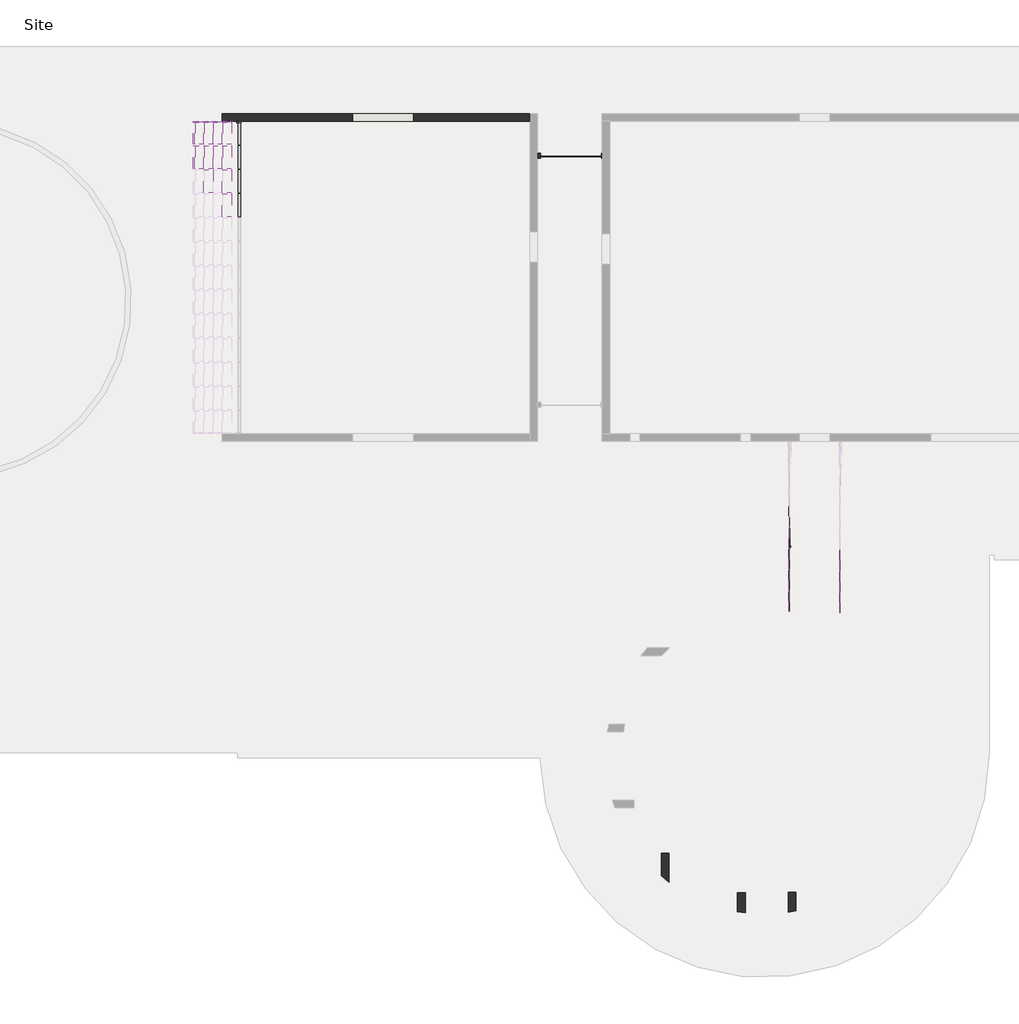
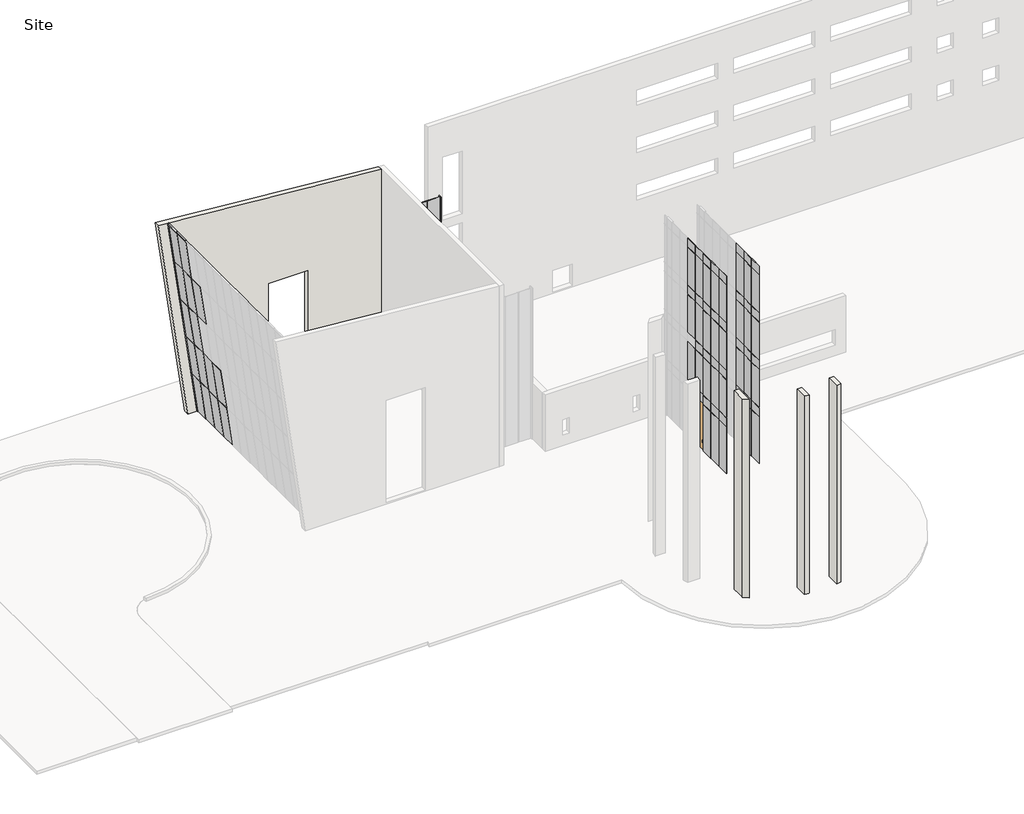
# One storey, part 2 of 4: 79 plates, 7 members, 6 walls, 1 door.
"""IFC4 building model written with IfcOpenShell, lengths in millimetres."""

from ifc_helpers import new_model, si_unit, point, frame, frame_2d, origin, place, context, project, spatial, polyline, circle_curve, trimmed, segment, composite_curve, outline, extrude, transform, mapped, element, save
from components import door_curtain_wall_single_glass_door_curtain_wall_single_cd2b9e2e, member_f8a9089e, member_5e02c13a, member_50cd645d, member_5d333a65, system_panel_glazed_908aa4c7, system_panel_glazed_38880ecf, system_panel_glazed_26f8e022, system_panel_glazed_31d10065, system_panel_glazed_d00c2bb3, system_panel_glazed_c11227ff, system_panel_glazed_2b3d2baa, system_panel_glazed_00a161e3, system_panel_glazed_8fe7ab7d, system_panel_glazed_2ccc015e, system_panel_glazed_636dec6d, system_panel_glazed_4a693619, system_panel_glazed_35bb093a, system_panel_glazed_f91df05e, system_panel_glazed_78b5b18d, system_panel_metal_panel_ca084d4b, system_panel_metal_panel_947f48db, system_panel_metal_panel_f9c2a482, system_panel_metal_panel_dcd9a435

model = new_model("IFC4")

# Units and contexts
model_context = context("Model", 3, world=origin())
ifc_project = project(units=[si_unit("LENGTHUNIT", "METRE", prefix="MILLI")], contexts=[model_context])

# Site, building, storey
site = spatial("IfcSite", under=ifc_project)
building = spatial("IfcBuilding", under=site)
storey = spatial("IfcBuildingStorey", under=building, Name="Site", Elevation=-152.4)

# Door
placement = place(None, origin())
door_curtain_wall_single_glass_door_curtain_wall_single_shape = door_curtain_wall_single_glass_door_curtain_wall_single_cd2b9e2e(model_context)
element("IfcDoor", 1, ObjectType="Door-Curtain-Wall-Single-Glass : Door-Curtain-Wall-Single-Glass", at=placement, inside=storey, context=model_context, shape_type="MappedRepresentation", body=[
    mapped(door_curtain_wall_single_glass_door_curtain_wall_single_shape, transform((7830.8276119, 32367.0165522, -88.9), x_axis=(0.0, 1.0, 0.0), y_axis=(-1.0, 0.0, 0.0), z_axis=(0.0, 0.0, 1.0))),
])

# Members
member_shape = member_f8a9089e(model_context)
element("IfcMember", 2, ObjectType="Rectangular Mullion1 : 2.5\" x 5\" rectangular", at=placement, inside=storey, context=model_context, shape_type="MappedRepresentation", body=[
    mapped(member_shape, transform((-27908.8595656, 55983.1320811, 19574.3667708), x_axis=(-0.13917310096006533, 0.0, 0.9902680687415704), y_axis=(-0.9902680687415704, 0.0, -0.13917310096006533), z_axis=(0.0, -1.0, 0.0))),
])
member_2_shape = member_5e02c13a(model_context)
element("IfcMember", 3, ObjectType="Rectangular Mullion1 : 2.5\" x 5\" rectangular", at=placement, inside=storey, context=model_context, shape_type="MappedRepresentation", body=[
    mapped(member_2_shape, transform((-27908.8595656, 54536.0647734, 19574.3667708), x_axis=(-0.13917310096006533, 0.0, 0.9902680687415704), y_axis=(-0.9902680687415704, 0.0, -0.13917310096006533), z_axis=(0.0, -1.0, 0.0))),
])
member_3_shape = member_50cd645d(model_context)
element("IfcMember", 4, ObjectType="Rectangular Mullion1 : 2.5\" x 5\" rectangular", at=placement, inside=storey, context=model_context, shape_type="MappedRepresentation", body=[
    mapped(member_3_shape, transform((-27908.8595656, 57366.699389, 19574.3667708), x_axis=(0.0, 1.0, 0.0), y_axis=(-0.9902680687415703, 0.0, -0.13917310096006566), z_axis=(-0.13917310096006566, 0.0, 0.9902680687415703))),
])
element("IfcMember", 5, ObjectType="Rectangular Mullion1 : 2.5\" x 5\" rectangular", at=placement, inside=storey, context=model_context, shape_type="MappedRepresentation", body=[
    mapped(member_3_shape, transform((-25693.3790742, 57366.699389, 3810.4039622), x_axis=(0.0, 1.0, 0.0), y_axis=(-0.9902680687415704, 0.0, -0.13917310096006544), z_axis=(-0.1391731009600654, 0.0, 0.9902680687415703))),
])
member_4_shape = member_5d333a65(model_context)
element("IfcMember", 6, ObjectType="Rectangular Mullion1 : 2.5\" x 5\" rectangular", at=placement, inside=storey, context=model_context, shape_type="MappedRepresentation", body=[
    mapped(member_4_shape, transform((-26246.1445106, 57366.699389, 7743.5344115), x_axis=(0.0, 1.0, 0.0), y_axis=(-0.9902680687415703, 0.0, -0.13917310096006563), z_axis=(-0.1391731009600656, 0.0, 0.9902680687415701))),
])
element("IfcMember", 7, ObjectType="Rectangular Mullion1 : 2.5\" x 5\" rectangular", at=placement, inside=storey, context=model_context, shape_type="MappedRepresentation", body=[
    mapped(member_4_shape, transform((-26798.9099469, 57366.699389, 11676.6648609), x_axis=(0.0, 1.0, 0.0), y_axis=(-0.9902680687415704, 0.0, -0.13917310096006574), z_axis=(-0.13917310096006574, 0.0, 0.9902680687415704))),
])
element("IfcMember", 8, ObjectType="Rectangular Mullion1 : 2.5\" x 5\" rectangular", at=placement, inside=storey, context=model_context, shape_type="MappedRepresentation", body=[
    mapped(member_4_shape, transform((-27351.6753833, 57366.699389, 15609.7953102), x_axis=(0.0, 1.0, 0.0), y_axis=(-0.9902680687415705, 0.0, -0.13917310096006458), z_axis=(-0.13917310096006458, 0.0, 0.9902680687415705))),
])

# Plates
system_panel_glazed_shape = system_panel_glazed_908aa4c7(model_context)
element("IfcPlate", 9, ObjectType="System Panel : Glazed", at=placement, inside=storey, context=model_context, shape_type="MappedRepresentation", body=[
    mapped(system_panel_glazed_shape, transform((10878.8276119, 28482.136889, -88.9), x_axis=(0.0, 1.0, 0.0), y_axis=(-1.0, 0.0, 0.0), z_axis=(0.0, 0.0, 1.0))),
])
system_panel_glazed_2_shape = system_panel_glazed_38880ecf(model_context)
element("IfcPlate", 10, ObjectType="System Panel : Glazed", at=placement, inside=storey, context=model_context, shape_type="MappedRepresentation", body=[
    mapped(system_panel_glazed_2_shape, transform((7830.8276119, 28569.8946611, -88.9), x_axis=(0.0, 1.0, 0.0), y_axis=(-1.0, 0.0, 0.0), z_axis=(0.0, 0.0, 1.0))),
])
system_panel_glazed_3_shape = system_panel_glazed_26f8e022(model_context)
element("IfcPlate", 11, ObjectType="System Panel : Glazed", at=placement, inside=storey, context=model_context, shape_type="MappedRepresentation", body=[
    mapped(system_panel_glazed_3_shape, transform((7830.8276119, 33638.015516, -88.9), x_axis=(0.0, 1.0, 0.0), y_axis=(-1.0, 0.0, 0.0), z_axis=(0.0, 0.0, 1.0))),
])
element("IfcPlate", 12, ObjectType="System Panel : Glazed", at=placement, inside=storey, context=model_context, shape_type="MappedRepresentation", body=[
    mapped(system_panel_glazed_3_shape, transform((7830.8276119, 31096.0175885, -88.9), x_axis=(0.0, 1.0, 0.0), y_axis=(-1.0, 0.0, 0.0), z_axis=(0.0, 0.0, 1.0))),
])
element("IfcPlate", 13, ObjectType="System Panel : Glazed", at=placement, inside=storey, context=model_context, shape_type="MappedRepresentation", body=[
    mapped(system_panel_glazed_3_shape, transform((7830.8276119, 29825.0186248, -88.9), x_axis=(0.0, 1.0, 0.0), y_axis=(-1.0, 0.0, 0.0), z_axis=(0.0, 0.0, 1.0))),
])
system_panel_glazed_4_shape = system_panel_glazed_31d10065(model_context)
element("IfcPlate", 14, ObjectType="System Panel : Glazed", at=placement, inside=storey, context=model_context, shape_type="MappedRepresentation", body=[
    mapped(system_panel_glazed_4_shape, transform((10878.8276119, 31031.661889, -88.9), x_axis=(0.0, 1.0, 0.0), y_axis=(-1.0, 0.0, 0.0), z_axis=(0.0, 0.0, 1.0))),
])
element("IfcPlate", 15, ObjectType="System Panel : Glazed", at=placement, inside=storey, context=model_context, shape_type="MappedRepresentation", body=[
    mapped(system_panel_glazed_4_shape, transform((10878.8276119, 29748.961889, -88.9), x_axis=(0.0, 1.0, 0.0), y_axis=(-1.0, 0.0, 0.0), z_axis=(0.0, 0.0, 1.0))),
])
system_panel_glazed_5_shape = system_panel_glazed_d00c2bb3(model_context)
element("IfcPlate", 16, ObjectType="System Panel : Glazed", at=placement, inside=storey, context=model_context, shape_type="MappedRepresentation", body=[
    mapped(system_panel_glazed_5_shape, transform((-4081.74698, 55307.711889, -152.4), x_axis=(-1.0, 0.0, 0.0), y_axis=(0.0, -1.0, 0.0), z_axis=(0.0, 0.0, 1.0))),
])
element("IfcPlate", 17, ObjectType="System Panel : Glazed", at=placement, inside=storey, context=model_context, shape_type="MappedRepresentation", body=[
    mapped(system_panel_glazed_5_shape, transform((-6519.8940341, 55307.711889, -152.4), x_axis=(-1.0, 0.0, 0.0), y_axis=(0.0, -1.0, 0.0), z_axis=(0.0, 0.0, 1.0))),
])
element("IfcPlate", 18, ObjectType="System Panel : Glazed", at=placement, inside=storey, context=model_context, shape_type="MappedRepresentation", body=[
    mapped(system_panel_glazed_5_shape, transform((-5300.8205071, 55307.711889, -152.4), x_axis=(-1.0, 0.0, 0.0), y_axis=(0.0, -1.0, 0.0), z_axis=(0.0, 0.0, 1.0))),
])
system_panel_glazed_6_shape = system_panel_glazed_c11227ff(model_context)
element("IfcPlate", 19, ObjectType="System Panel : Glazed", at=placement, inside=storey, context=model_context, shape_type="MappedRepresentation", body=[
    mapped(system_panel_glazed_6_shape, transform((10878.8276119, 28482.136889, 14966.95), x_axis=(0.0, 1.0, 0.0), y_axis=(-1.0, 0.0, 0.0), z_axis=(0.0, 0.0, 1.0))),
])
element("IfcPlate", 20, ObjectType="System Panel : Glazed", at=placement, inside=storey, context=model_context, shape_type="MappedRepresentation", body=[
    mapped(system_panel_glazed_6_shape, transform((10878.8276119, 28482.136889, 10242.55), x_axis=(0.0, 1.0, 0.0), y_axis=(-1.0, 0.0, 0.0), z_axis=(0.0, 0.0, 1.0))),
])
element("IfcPlate", 21, ObjectType="System Panel : Glazed", at=placement, inside=storey, context=model_context, shape_type="MappedRepresentation", body=[
    mapped(system_panel_glazed_6_shape, transform((10878.8276119, 28482.136889, 5518.15), x_axis=(0.0, 1.0, 0.0), y_axis=(-1.0, 0.0, 0.0), z_axis=(0.0, 0.0, 1.0))),
])
system_panel_glazed_7_shape = system_panel_glazed_2b3d2baa(model_context)
element("IfcPlate", 22, ObjectType="System Panel : Glazed", at=placement, inside=storey, context=model_context, shape_type="MappedRepresentation", body=[
    mapped(system_panel_glazed_7_shape, transform((10878.8276119, 29748.961889, 14966.95), x_axis=(0.0, 1.0, 0.0), y_axis=(-1.0, 0.0, 0.0), z_axis=(0.0, 0.0, 1.0))),
])
element("IfcPlate", 23, ObjectType="System Panel : Glazed", at=placement, inside=storey, context=model_context, shape_type="MappedRepresentation", body=[
    mapped(system_panel_glazed_7_shape, transform((10878.8276119, 31031.661889, 14966.95), x_axis=(0.0, 1.0, 0.0), y_axis=(-1.0, 0.0, 0.0), z_axis=(0.0, 0.0, 1.0))),
])
element("IfcPlate", 24, ObjectType="System Panel : Glazed", at=placement, inside=storey, context=model_context, shape_type="MappedRepresentation", body=[
    mapped(system_panel_glazed_7_shape, transform((10878.8276119, 29748.961889, 10242.55), x_axis=(0.0, 1.0, 0.0), y_axis=(-1.0, 0.0, 0.0), z_axis=(0.0, 0.0, 1.0))),
])
element("IfcPlate", 25, ObjectType="System Panel : Glazed", at=placement, inside=storey, context=model_context, shape_type="MappedRepresentation", body=[
    mapped(system_panel_glazed_7_shape, transform((10878.8276119, 31031.661889, 10242.55), x_axis=(0.0, 1.0, 0.0), y_axis=(-1.0, 0.0, 0.0), z_axis=(0.0, 0.0, 1.0))),
])
element("IfcPlate", 26, ObjectType="System Panel : Glazed", at=placement, inside=storey, context=model_context, shape_type="MappedRepresentation", body=[
    mapped(system_panel_glazed_7_shape, transform((10878.8276119, 29748.961889, 5518.15), x_axis=(0.0, 1.0, 0.0), y_axis=(-1.0, 0.0, 0.0), z_axis=(0.0, 0.0, 1.0))),
])
element("IfcPlate", 27, ObjectType="System Panel : Glazed", at=placement, inside=storey, context=model_context, shape_type="MappedRepresentation", body=[
    mapped(system_panel_glazed_7_shape, transform((10878.8276119, 31031.661889, 5518.15), x_axis=(0.0, 1.0, 0.0), y_axis=(-1.0, 0.0, 0.0), z_axis=(0.0, 0.0, 1.0))),
])
system_panel_glazed_8_shape = system_panel_glazed_00a161e3(model_context)
element("IfcPlate", 28, ObjectType="System Panel : Glazed", at=placement, inside=storey, context=model_context, shape_type="MappedRepresentation", body=[
    mapped(system_panel_glazed_8_shape, transform((10878.8276119, 28482.136889, 9328.15), x_axis=(0.0, 1.0, 0.0), y_axis=(-1.0, 0.0, 0.0), z_axis=(0.0, 0.0, 1.0))),
])
element("IfcPlate", 29, ObjectType="System Panel : Glazed", at=placement, inside=storey, context=model_context, shape_type="MappedRepresentation", body=[
    mapped(system_panel_glazed_8_shape, transform((10878.8276119, 28482.136889, 4603.75), x_axis=(0.0, 1.0, 0.0), y_axis=(-1.0, 0.0, 0.0), z_axis=(0.0, 0.0, 1.0))),
])
element("IfcPlate", 30, ObjectType="System Panel : Glazed", at=placement, inside=storey, context=model_context, shape_type="MappedRepresentation", body=[
    mapped(system_panel_glazed_8_shape, transform((10878.8276119, 28482.136889, 14052.55), x_axis=(0.0, 1.0, 0.0), y_axis=(-1.0, 0.0, 0.0), z_axis=(0.0, 0.0, 1.0))),
])
system_panel_glazed_9_shape = system_panel_glazed_8fe7ab7d(model_context)
element("IfcPlate", 31, ObjectType="System Panel : Glazed", at=placement, inside=storey, context=model_context, shape_type="MappedRepresentation", body=[
    mapped(system_panel_glazed_9_shape, transform((10878.8276119, 29748.961889, 9328.15), x_axis=(0.0, 1.0, 0.0), y_axis=(-1.0, 0.0, 0.0), z_axis=(0.0, 0.0, 1.0))),
])
element("IfcPlate", 32, ObjectType="System Panel : Glazed", at=placement, inside=storey, context=model_context, shape_type="MappedRepresentation", body=[
    mapped(system_panel_glazed_9_shape, transform((10878.8276119, 31031.661889, 9328.15), x_axis=(0.0, 1.0, 0.0), y_axis=(-1.0, 0.0, 0.0), z_axis=(0.0, 0.0, 1.0))),
])
element("IfcPlate", 33, ObjectType="System Panel : Glazed", at=placement, inside=storey, context=model_context, shape_type="MappedRepresentation", body=[
    mapped(system_panel_glazed_9_shape, transform((10878.8276119, 29748.961889, 4603.75), x_axis=(0.0, 1.0, 0.0), y_axis=(-1.0, 0.0, 0.0), z_axis=(0.0, 0.0, 1.0))),
])
element("IfcPlate", 34, ObjectType="System Panel : Glazed", at=placement, inside=storey, context=model_context, shape_type="MappedRepresentation", body=[
    mapped(system_panel_glazed_9_shape, transform((10878.8276119, 31031.661889, 4603.75), x_axis=(0.0, 1.0, 0.0), y_axis=(-1.0, 0.0, 0.0), z_axis=(0.0, 0.0, 1.0))),
])
element("IfcPlate", 35, ObjectType="System Panel : Glazed", at=placement, inside=storey, context=model_context, shape_type="MappedRepresentation", body=[
    mapped(system_panel_glazed_9_shape, transform((10878.8276119, 29748.961889, 14052.55), x_axis=(0.0, 1.0, 0.0), y_axis=(-1.0, 0.0, 0.0), z_axis=(0.0, 0.0, 1.0))),
])
element("IfcPlate", 36, ObjectType="System Panel : Glazed", at=placement, inside=storey, context=model_context, shape_type="MappedRepresentation", body=[
    mapped(system_panel_glazed_9_shape, transform((10878.8276119, 31031.661889, 14052.55), x_axis=(0.0, 1.0, 0.0), y_axis=(-1.0, 0.0, 0.0), z_axis=(0.0, 0.0, 1.0))),
])
system_panel_glazed_10_shape = system_panel_glazed_2ccc015e(model_context)
element("IfcPlate", 37, ObjectType="System Panel : Glazed", at=placement, inside=storey, context=model_context, shape_type="MappedRepresentation", body=[
    mapped(system_panel_glazed_10_shape, transform((10878.8276119, 28482.136889, 18776.95), x_axis=(0.0, 1.0, 0.0), y_axis=(-1.0, 0.0, 0.0), z_axis=(0.0, 0.0, 1.0))),
])
system_panel_glazed_11_shape = system_panel_glazed_636dec6d(model_context)
element("IfcPlate", 38, ObjectType="System Panel : Glazed", at=placement, inside=storey, context=model_context, shape_type="MappedRepresentation", body=[
    mapped(system_panel_glazed_11_shape, transform((10878.8276119, 29748.961889, 18776.95), x_axis=(0.0, 1.0, 0.0), y_axis=(-1.0, 0.0, 0.0), z_axis=(0.0, 0.0, 1.0))),
])
element("IfcPlate", 39, ObjectType="System Panel : Glazed", at=placement, inside=storey, context=model_context, shape_type="MappedRepresentation", body=[
    mapped(system_panel_glazed_11_shape, transform((10878.8276119, 31031.661889, 18776.95), x_axis=(0.0, 1.0, 0.0), y_axis=(-1.0, 0.0, 0.0), z_axis=(0.0, 0.0, 1.0))),
])
system_panel_glazed_12_shape = system_panel_glazed_4a693619(model_context)
element("IfcPlate", 40, ObjectType="System Panel : Glazed", at=placement, inside=storey, context=model_context, shape_type="MappedRepresentation", body=[
    mapped(system_panel_glazed_12_shape, transform((7830.8276119, 28569.8946611, 5518.15), x_axis=(0.0, 1.0, 0.0), y_axis=(-1.0, 0.0, 0.0), z_axis=(0.0, 0.0, 1.0))),
])
element("IfcPlate", 41, ObjectType="System Panel : Glazed", at=placement, inside=storey, context=model_context, shape_type="MappedRepresentation", body=[
    mapped(system_panel_glazed_12_shape, transform((7830.8276119, 28569.8946611, 10242.55), x_axis=(0.0, 1.0, 0.0), y_axis=(-1.0, 0.0, 0.0), z_axis=(0.0, 0.0, 1.0))),
])
element("IfcPlate", 42, ObjectType="System Panel : Glazed", at=placement, inside=storey, context=model_context, shape_type="MappedRepresentation", body=[
    mapped(system_panel_glazed_12_shape, transform((7830.8276119, 28569.8946611, 14966.95), x_axis=(0.0, 1.0, 0.0), y_axis=(-1.0, 0.0, 0.0), z_axis=(0.0, 0.0, 1.0))),
])
system_panel_glazed_13_shape = system_panel_glazed_35bb093a(model_context)
element("IfcPlate", 43, ObjectType="System Panel : Glazed", at=placement, inside=storey, context=model_context, shape_type="MappedRepresentation", body=[
    mapped(system_panel_glazed_13_shape, transform((7830.8276119, 29825.0186248, 5518.15), x_axis=(0.0, 1.0, 0.0), y_axis=(-1.0, 0.0, 0.0), z_axis=(0.0, 0.0, 1.0))),
])
element("IfcPlate", 44, ObjectType="System Panel : Glazed", at=placement, inside=storey, context=model_context, shape_type="MappedRepresentation", body=[
    mapped(system_panel_glazed_13_shape, transform((7830.8276119, 31096.0175885, 5518.15), x_axis=(0.0, 1.0, 0.0), y_axis=(-1.0, 0.0, 0.0), z_axis=(0.0, 0.0, 1.0))),
])
element("IfcPlate", 45, ObjectType="System Panel : Glazed", at=placement, inside=storey, context=model_context, shape_type="MappedRepresentation", body=[
    mapped(system_panel_glazed_13_shape, transform((7830.8276119, 32367.0165522, 5518.15), x_axis=(0.0, 1.0, 0.0), y_axis=(-1.0, 0.0, 0.0), z_axis=(0.0, 0.0, 1.0))),
])
element("IfcPlate", 46, ObjectType="System Panel : Glazed", at=placement, inside=storey, context=model_context, shape_type="MappedRepresentation", body=[
    mapped(system_panel_glazed_13_shape, transform((7830.8276119, 33638.015516, 5518.15), x_axis=(0.0, 1.0, 0.0), y_axis=(-1.0, 0.0, 0.0), z_axis=(0.0, 0.0, 1.0))),
])
element("IfcPlate", 47, ObjectType="System Panel : Glazed", at=placement, inside=storey, context=model_context, shape_type="MappedRepresentation", body=[
    mapped(system_panel_glazed_13_shape, transform((7830.8276119, 29825.0186248, 10242.55), x_axis=(0.0, 1.0, 0.0), y_axis=(-1.0, 0.0, 0.0), z_axis=(0.0, 0.0, 1.0))),
])
element("IfcPlate", 48, ObjectType="System Panel : Glazed", at=placement, inside=storey, context=model_context, shape_type="MappedRepresentation", body=[
    mapped(system_panel_glazed_13_shape, transform((7830.8276119, 31096.0175885, 10242.55), x_axis=(0.0, 1.0, 0.0), y_axis=(-1.0, 0.0, 0.0), z_axis=(0.0, 0.0, 1.0))),
])
element("IfcPlate", 49, ObjectType="System Panel : Glazed", at=placement, inside=storey, context=model_context, shape_type="MappedRepresentation", body=[
    mapped(system_panel_glazed_13_shape, transform((7830.8276119, 32367.0165522, 10242.55), x_axis=(0.0, 1.0, 0.0), y_axis=(-1.0, 0.0, 0.0), z_axis=(0.0, 0.0, 1.0))),
])
element("IfcPlate", 50, ObjectType="System Panel : Glazed", at=placement, inside=storey, context=model_context, shape_type="MappedRepresentation", body=[
    mapped(system_panel_glazed_13_shape, transform((7830.8276119, 33638.015516, 10242.55), x_axis=(0.0, 1.0, 0.0), y_axis=(-1.0, 0.0, 0.0), z_axis=(0.0, 0.0, 1.0))),
])
element("IfcPlate", 51, ObjectType="System Panel : Glazed", at=placement, inside=storey, context=model_context, shape_type="MappedRepresentation", body=[
    mapped(system_panel_glazed_13_shape, transform((7830.8276119, 29825.0186248, 14966.95), x_axis=(0.0, 1.0, 0.0), y_axis=(-1.0, 0.0, 0.0), z_axis=(0.0, 0.0, 1.0))),
])
element("IfcPlate", 52, ObjectType="System Panel : Glazed", at=placement, inside=storey, context=model_context, shape_type="MappedRepresentation", body=[
    mapped(system_panel_glazed_13_shape, transform((7830.8276119, 31096.0175885, 14966.95), x_axis=(0.0, 1.0, 0.0), y_axis=(-1.0, 0.0, 0.0), z_axis=(0.0, 0.0, 1.0))),
])
element("IfcPlate", 53, ObjectType="System Panel : Glazed", at=placement, inside=storey, context=model_context, shape_type="MappedRepresentation", body=[
    mapped(system_panel_glazed_13_shape, transform((7830.8276119, 32367.0165522, 14966.95), x_axis=(0.0, 1.0, 0.0), y_axis=(-1.0, 0.0, 0.0), z_axis=(0.0, 0.0, 1.0))),
])
element("IfcPlate", 54, ObjectType="System Panel : Glazed", at=placement, inside=storey, context=model_context, shape_type="MappedRepresentation", body=[
    mapped(system_panel_glazed_13_shape, transform((7830.8276119, 33638.015516, 14966.95), x_axis=(0.0, 1.0, 0.0), y_axis=(-1.0, 0.0, 0.0), z_axis=(0.0, 0.0, 1.0))),
])
system_panel_glazed_14_shape = system_panel_glazed_f91df05e(model_context)
element("IfcPlate", 55, ObjectType="System Panel : Glazed", at=placement, inside=storey, context=model_context, shape_type="MappedRepresentation", body=[
    mapped(system_panel_glazed_14_shape, transform((-25145.0323838, 56643.165735, -91.285476), x_axis=(0.0, -1.0, 0.0), y_axis=(0.9902680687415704, 0.0, 0.13917310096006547), z_axis=(-0.13917310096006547, 0.0, 0.9902680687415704))),
])
element("IfcPlate", 56, ObjectType="System Panel : Glazed", at=placement, inside=storey, context=model_context, shape_type="MappedRepresentation", body=[
    mapped(system_panel_glazed_14_shape, transform((-25697.7978202, 56643.165735, 3841.8449733), x_axis=(0.0, -1.0, 0.0), y_axis=(0.9902680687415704, 0.0, 0.13917310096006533), z_axis=(-0.13917310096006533, 0.0, 0.9902680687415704))),
])
element("IfcPlate", 57, ObjectType="System Panel : Glazed", at=placement, inside=storey, context=model_context, shape_type="MappedRepresentation", body=[
    mapped(system_panel_glazed_14_shape, transform((-26250.5632565, 56643.165735, 7774.9754227), x_axis=(0.0, -1.0, 0.0), y_axis=(0.9902680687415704, 0.0, 0.13917310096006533), z_axis=(-0.13917310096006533, 0.0, 0.9902680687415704))),
])
element("IfcPlate", 58, ObjectType="System Panel : Glazed", at=placement, inside=storey, context=model_context, shape_type="MappedRepresentation", body=[
    mapped(system_panel_glazed_14_shape, transform((-26803.3286929, 56643.165735, 11708.105872), x_axis=(0.0, -1.0, 0.0), y_axis=(0.9902680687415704, 0.0, 0.13917310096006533), z_axis=(-0.13917310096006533, 0.0, 0.9902680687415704))),
])
element("IfcPlate", 59, ObjectType="System Panel : Glazed", at=placement, inside=storey, context=model_context, shape_type="MappedRepresentation", body=[
    mapped(system_panel_glazed_14_shape, transform((-27356.0941292, 56643.165735, 15641.2363214), x_axis=(0.0, -1.0, 0.0), y_axis=(0.9902680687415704, 0.0, 0.13917310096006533), z_axis=(-0.13917310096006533, 0.0, 0.9902680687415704))),
])
system_panel_glazed_15_shape = system_panel_glazed_78b5b18d(model_context)
element("IfcPlate", 60, ObjectType="System Panel : Glazed", at=placement, inside=storey, context=model_context, shape_type="MappedRepresentation", body=[
    mapped(system_panel_glazed_15_shape, transform((-25145.0323838, 55227.8484272, -91.285476), x_axis=(0.0, -1.0, 0.0), y_axis=(0.9902680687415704, 0.0, 0.13917310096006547), z_axis=(-0.13917310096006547, 0.0, 0.9902680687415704))),
])
element("IfcPlate", 61, ObjectType="System Panel : Glazed", at=placement, inside=storey, context=model_context, shape_type="MappedRepresentation", body=[
    mapped(system_panel_glazed_15_shape, transform((-25145.0323838, 53780.7811196, -91.285476), x_axis=(0.0, -1.0, 0.0), y_axis=(0.9902680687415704, 0.0, 0.13917310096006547), z_axis=(-0.13917310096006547, 0.0, 0.9902680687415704))),
])
element("IfcPlate", 62, ObjectType="System Panel : Glazed", at=placement, inside=storey, context=model_context, shape_type="MappedRepresentation", body=[
    mapped(system_panel_glazed_15_shape, transform((-25145.0323838, 52333.7138119, -91.285476), x_axis=(0.0, -1.0, 0.0), y_axis=(0.9902680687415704, 0.0, 0.13917310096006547), z_axis=(-0.13917310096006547, 0.0, 0.9902680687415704))),
])
element("IfcPlate", 63, ObjectType="System Panel : Glazed", at=placement, inside=storey, context=model_context, shape_type="MappedRepresentation", body=[
    mapped(system_panel_glazed_15_shape, transform((-25697.7978202, 55227.8484272, 3841.8449733), x_axis=(0.0, -1.0, 0.0), y_axis=(0.9902680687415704, 0.0, 0.13917310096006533), z_axis=(-0.13917310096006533, 0.0, 0.9902680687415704))),
])
element("IfcPlate", 64, ObjectType="System Panel : Glazed", at=placement, inside=storey, context=model_context, shape_type="MappedRepresentation", body=[
    mapped(system_panel_glazed_15_shape, transform((-25697.7978202, 53780.7811196, 3841.8449733), x_axis=(0.0, -1.0, 0.0), y_axis=(0.9902680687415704, 0.0, 0.13917310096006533), z_axis=(-0.13917310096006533, 0.0, 0.9902680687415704))),
])
element("IfcPlate", 65, ObjectType="System Panel : Glazed", at=placement, inside=storey, context=model_context, shape_type="MappedRepresentation", body=[
    mapped(system_panel_glazed_15_shape, transform((-25697.7978202, 52333.7138119, 3841.8449733), x_axis=(0.0, -1.0, 0.0), y_axis=(0.9902680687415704, 0.0, 0.13917310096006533), z_axis=(-0.13917310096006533, 0.0, 0.9902680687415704))),
])
element("IfcPlate", 66, ObjectType="System Panel : Glazed", at=placement, inside=storey, context=model_context, shape_type="MappedRepresentation", body=[
    mapped(system_panel_glazed_15_shape, transform((-26250.5632565, 55227.8484272, 7774.9754227), x_axis=(0.0, -1.0, 0.0), y_axis=(0.9902680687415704, 0.0, 0.13917310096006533), z_axis=(-0.13917310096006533, 0.0, 0.9902680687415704))),
])
element("IfcPlate", 67, ObjectType="System Panel : Glazed", at=placement, inside=storey, context=model_context, shape_type="MappedRepresentation", body=[
    mapped(system_panel_glazed_15_shape, transform((-26803.3286929, 55227.8484272, 11708.105872), x_axis=(0.0, -1.0, 0.0), y_axis=(0.9902680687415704, 0.0, 0.13917310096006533), z_axis=(-0.13917310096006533, 0.0, 0.9902680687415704))),
])
element("IfcPlate", 68, ObjectType="System Panel : Glazed", at=placement, inside=storey, context=model_context, shape_type="MappedRepresentation", body=[
    mapped(system_panel_glazed_15_shape, transform((-26803.3286929, 53780.7811196, 11708.105872), x_axis=(0.0, -1.0, 0.0), y_axis=(0.9902680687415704, 0.0, 0.13917310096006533), z_axis=(-0.13917310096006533, 0.0, 0.9902680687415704))),
])
element("IfcPlate", 69, ObjectType="System Panel : Glazed", at=placement, inside=storey, context=model_context, shape_type="MappedRepresentation", body=[
    mapped(system_panel_glazed_15_shape, transform((-27356.0941292, 55227.8484272, 15641.2363214), x_axis=(0.0, -1.0, 0.0), y_axis=(0.9902680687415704, 0.0, 0.13917310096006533), z_axis=(-0.13917310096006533, 0.0, 0.9902680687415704))),
])
system_panel_metal_panel_shape = system_panel_metal_panel_ca084d4b(model_context)
element("IfcPlate", 70, ObjectType="System Panel : Metal Panel", at=placement, inside=storey, context=model_context, shape_type="MappedRepresentation", body=[
    mapped(system_panel_metal_panel_shape, transform((7830.8276119, 28569.8946611, 18776.95), x_axis=(0.0, 1.0, 0.0), y_axis=(-1.0, 0.0, 0.0), z_axis=(0.0, 0.0, 1.0))),
])
system_panel_metal_panel_2_shape = system_panel_metal_panel_947f48db(model_context)
element("IfcPlate", 71, ObjectType="System Panel : Metal Panel", at=placement, inside=storey, context=model_context, shape_type="MappedRepresentation", body=[
    mapped(system_panel_metal_panel_2_shape, transform((7830.8276119, 29825.0186248, 18776.95), x_axis=(0.0, 1.0, 0.0), y_axis=(-1.0, 0.0, 0.0), z_axis=(0.0, 0.0, 1.0))),
])
element("IfcPlate", 72, ObjectType="System Panel : Metal Panel", at=placement, inside=storey, context=model_context, shape_type="MappedRepresentation", body=[
    mapped(system_panel_metal_panel_2_shape, transform((7830.8276119, 31096.0175885, 18776.95), x_axis=(0.0, 1.0, 0.0), y_axis=(-1.0, 0.0, 0.0), z_axis=(0.0, 0.0, 1.0))),
])
element("IfcPlate", 73, ObjectType="System Panel : Metal Panel", at=placement, inside=storey, context=model_context, shape_type="MappedRepresentation", body=[
    mapped(system_panel_metal_panel_2_shape, transform((7830.8276119, 32367.0165522, 18776.95), x_axis=(0.0, 1.0, 0.0), y_axis=(-1.0, 0.0, 0.0), z_axis=(0.0, 0.0, 1.0))),
])
element("IfcPlate", 74, ObjectType="System Panel : Metal Panel", at=placement, inside=storey, context=model_context, shape_type="MappedRepresentation", body=[
    mapped(system_panel_metal_panel_2_shape, transform((7830.8276119, 33638.015516, 18776.95), x_axis=(0.0, 1.0, 0.0), y_axis=(-1.0, 0.0, 0.0), z_axis=(0.0, 0.0, 1.0))),
])
system_panel_metal_panel_3_shape = system_panel_metal_panel_f9c2a482(model_context)
element("IfcPlate", 75, ObjectType="System Panel : Metal Panel", at=placement, inside=storey, context=model_context, shape_type="MappedRepresentation", body=[
    mapped(system_panel_metal_panel_3_shape, transform((7830.8276119, 28569.8946611, 14052.55), x_axis=(0.0, 1.0, 0.0), y_axis=(-1.0, 0.0, 0.0), z_axis=(0.0, 0.0, 1.0))),
])
element("IfcPlate", 76, ObjectType="System Panel : Metal Panel", at=placement, inside=storey, context=model_context, shape_type="MappedRepresentation", body=[
    mapped(system_panel_metal_panel_3_shape, transform((7830.8276119, 28569.8946611, 9328.15), x_axis=(0.0, 1.0, 0.0), y_axis=(-1.0, 0.0, 0.0), z_axis=(0.0, 0.0, 1.0))),
])
element("IfcPlate", 77, ObjectType="System Panel : Metal Panel", at=placement, inside=storey, context=model_context, shape_type="MappedRepresentation", body=[
    mapped(system_panel_metal_panel_3_shape, transform((7830.8276119, 28569.8946611, 4603.75), x_axis=(0.0, 1.0, 0.0), y_axis=(-1.0, 0.0, 0.0), z_axis=(0.0, 0.0, 1.0))),
])
system_panel_metal_panel_4_shape = system_panel_metal_panel_dcd9a435(model_context)
element("IfcPlate", 78, ObjectType="System Panel : Metal Panel", at=placement, inside=storey, context=model_context, shape_type="MappedRepresentation", body=[
    mapped(system_panel_metal_panel_4_shape, transform((7830.8276119, 29825.0186248, 14052.55), x_axis=(0.0, 1.0, 0.0), y_axis=(-1.0, 0.0, 0.0), z_axis=(0.0, 0.0, 1.0))),
])
element("IfcPlate", 79, ObjectType="System Panel : Metal Panel", at=placement, inside=storey, context=model_context, shape_type="MappedRepresentation", body=[
    mapped(system_panel_metal_panel_4_shape, transform((7830.8276119, 31096.0175885, 14052.55), x_axis=(0.0, 1.0, 0.0), y_axis=(-1.0, 0.0, 0.0), z_axis=(0.0, 0.0, 1.0))),
])
element("IfcPlate", 80, ObjectType="System Panel : Metal Panel", at=placement, inside=storey, context=model_context, shape_type="MappedRepresentation", body=[
    mapped(system_panel_metal_panel_4_shape, transform((7830.8276119, 32367.0165522, 14052.55), x_axis=(0.0, 1.0, 0.0), y_axis=(-1.0, 0.0, 0.0), z_axis=(0.0, 0.0, 1.0))),
])
element("IfcPlate", 81, ObjectType="System Panel : Metal Panel", at=placement, inside=storey, context=model_context, shape_type="MappedRepresentation", body=[
    mapped(system_panel_metal_panel_4_shape, transform((7830.8276119, 33638.015516, 14052.55), x_axis=(0.0, 1.0, 0.0), y_axis=(-1.0, 0.0, 0.0), z_axis=(0.0, 0.0, 1.0))),
])
element("IfcPlate", 82, ObjectType="System Panel : Metal Panel", at=placement, inside=storey, context=model_context, shape_type="MappedRepresentation", body=[
    mapped(system_panel_metal_panel_4_shape, transform((7830.8276119, 29825.0186248, 9328.15), x_axis=(0.0, 1.0, 0.0), y_axis=(-1.0, 0.0, 0.0), z_axis=(0.0, 0.0, 1.0))),
])
element("IfcPlate", 83, ObjectType="System Panel : Metal Panel", at=placement, inside=storey, context=model_context, shape_type="MappedRepresentation", body=[
    mapped(system_panel_metal_panel_4_shape, transform((7830.8276119, 31096.0175885, 9328.15), x_axis=(0.0, 1.0, 0.0), y_axis=(-1.0, 0.0, 0.0), z_axis=(0.0, 0.0, 1.0))),
])
element("IfcPlate", 84, ObjectType="System Panel : Metal Panel", at=placement, inside=storey, context=model_context, shape_type="MappedRepresentation", body=[
    mapped(system_panel_metal_panel_4_shape, transform((7830.8276119, 32367.0165522, 9328.15), x_axis=(0.0, 1.0, 0.0), y_axis=(-1.0, 0.0, 0.0), z_axis=(0.0, 0.0, 1.0))),
])
element("IfcPlate", 85, ObjectType="System Panel : Metal Panel", at=placement, inside=storey, context=model_context, shape_type="MappedRepresentation", body=[
    mapped(system_panel_metal_panel_4_shape, transform((7830.8276119, 29825.0186248, 4603.75), x_axis=(0.0, 1.0, 0.0), y_axis=(-1.0, 0.0, 0.0), z_axis=(0.0, 0.0, 1.0))),
])
element("IfcPlate", 86, ObjectType="System Panel : Metal Panel", at=placement, inside=storey, context=model_context, shape_type="MappedRepresentation", body=[
    mapped(system_panel_metal_panel_4_shape, transform((7830.8276119, 31096.0175885, 4603.75), x_axis=(0.0, 1.0, 0.0), y_axis=(-1.0, 0.0, 0.0), z_axis=(0.0, 0.0, 1.0))),
])
element("IfcPlate", 87, ObjectType="System Panel : Metal Panel", at=placement, inside=storey, context=model_context, shape_type="MappedRepresentation", body=[
    mapped(system_panel_metal_panel_4_shape, transform((7830.8276119, 32367.0165522, 4603.75), x_axis=(0.0, 1.0, 0.0), y_axis=(-1.0, 0.0, 0.0), z_axis=(0.0, 0.0, 1.0))),
])

# Walls
element("IfcWall", 88, ObjectType="Stone on CMU", at=placement, inside=storey, context=model_context, shape_type="SweptSolid", body=[
    extrude(outline(composite_curve([segment(polyline([(140.6953567, 12095.1176395), (140.6953567, 13452.4789718), (594.7203567, 13452.4789718), (594.7203567, 11730.5482318)]), True, "CONTINUOUS"), segment(trimmed(circle_curve(frame_2d((6332.5692024, 19341.311889)), 9531.35), [point((594.7203567, 11730.5482318))], [point((140.6953567, 12095.1176395))], False, "CARTESIAN"), True, "CONTINUOUS")], self_intersect=False)), frame((0.0, 0.0, -152.4), z_axis=(0.0, 0.0, 1.0), x_axis=(1.0, 0.0, 0.0)), (0.0, 0.0, 1.0), 19812.0),
])
element("IfcWall", 89, ObjectType="Stone on CMU", at=placement, inside=storey, context=model_context, shape_type="SweptSolid", body=[
    extrude(outline(composite_curve([segment(polyline([(4712.6953567, 9948.6210314), (4712.6953567, 11075.8499375), (5166.7203567, 11075.8499375), (5166.7203567, 9881.5323307)]), True, "CONTINUOUS"), segment(trimmed(circle_curve(frame_2d((6332.5692024, 19341.311889)), 9531.35), [point((5166.7203567, 9881.5323307))], [point((4712.6953567, 9948.6210314))], False, "CARTESIAN"), True, "CONTINUOUS")], self_intersect=False)), frame((0.0, 0.0, -152.4), z_axis=(0.0, 0.0, 1.0), x_axis=(1.0, 0.0, 0.0)), (0.0, 0.0, 1.0), 19812.0),
])
element("IfcWall", 90, ObjectType="Stone on CMU", at=placement, inside=storey, context=model_context, shape_type="SweptSolid", body=[
    extrude(outline(composite_curve([segment(polyline([(7760.6953567, 9917.5605919), (7760.6953567, 11124.3513783), (8214.7203567, 11124.3513783), (8214.7203567, 9997.6434523)]), True, "CONTINUOUS"), segment(trimmed(circle_curve(frame_2d((6332.5692024, 19341.311889)), 9531.35), [point((8214.7203567, 9997.6434523))], [point((7760.6953567, 9917.5605919))], False, "CARTESIAN"), True, "CONTINUOUS")], self_intersect=False)), frame((0.0, 0.0, -152.4), z_axis=(0.0, 0.0, 1.0), x_axis=(1.0, 0.0, 0.0)), (0.0, 0.0, 1.0), 19812.0),
])
element("IfcWall", 91, ObjectType="Stone on CMU", at=placement, inside=storey, context=model_context, shape_type="SweptSolid", body=[
    extrude(outline(polyline([(-152.4, -26050.8432976), (-152.4, -7761.2557976), (17898.2153222, -7761.2557976), (19654.3186785, -28834.4960734), (-152.4, -26050.8432976)]), holes=[polyline([(10210.8, -14747.8432976), (0.0, -14747.8432976), (0.0, -18405.4432976), (10210.8, -18405.4432976), (10210.8, -14747.8432976)])]), frame((0.0, 57366.699389, 0.0), z_axis=(0.0, 1.0, 0.0), x_axis=(0.0, 0.0, 1.0)), (0.0, 0.0, 1.0), 454.025),
])
element("IfcWall", 92, ObjectType="a_Mtl panel on Mtl stud", at=placement, inside=storey, context=model_context, shape_type="SweptSolid", body=[
    extrude(outline(polyline([(-3472.2102165, 55463.286889), (-3419.8227165, 55463.286889), (-3419.8227165, 55152.136889), (-3472.2102165, 55152.136889), (-3472.2102165, 55463.286889)])), frame((0.0, 0.0, -152.4), z_axis=(0.0, 0.0, 1.0), x_axis=(1.0, 0.0, 0.0)), (0.0, 0.0, 1.0), 15087.6),
])
element("IfcWall", 93, ObjectType="a_Mtl panel on Mtl stud", at=placement, inside=storey, context=model_context, shape_type="SweptSolid", body=[
    extrude(outline(polyline([(-7307.2307976, 55463.286889), (-7129.4307976, 55463.286889), (-7129.4307976, 55152.136889), (-7307.2307976, 55152.136889), (-7307.2307976, 55463.286889)])), frame((0.0, 0.0, -152.4), z_axis=(0.0, 0.0, 1.0), x_axis=(1.0, 0.0, 0.0)), (0.0, 0.0, 1.0), 15087.6),
])

save(model, "model.ifc")
